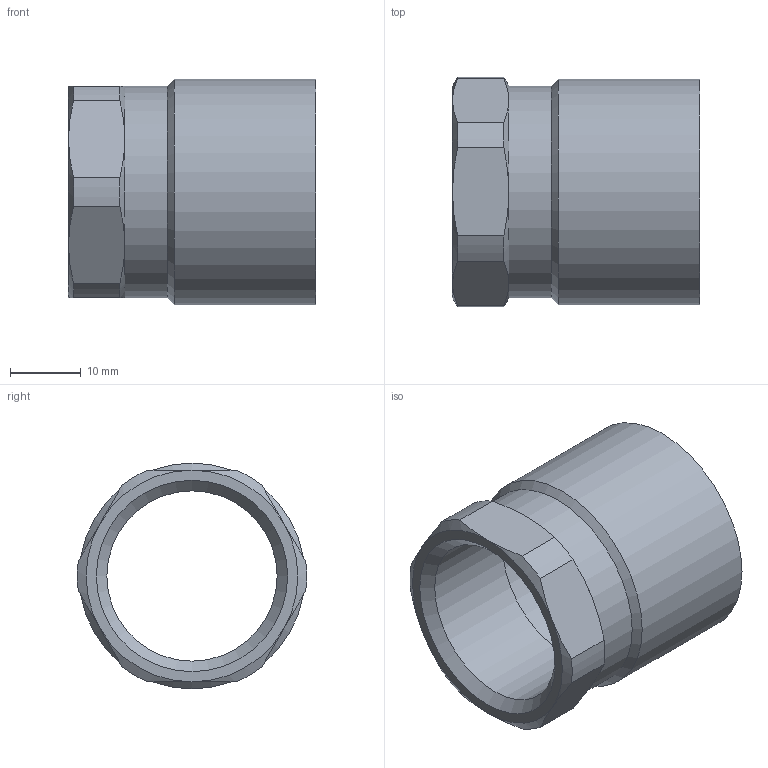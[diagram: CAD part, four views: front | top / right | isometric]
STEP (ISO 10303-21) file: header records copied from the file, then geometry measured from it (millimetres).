
FILE_DESCRIPTION((''),'2;1');
FILE_NAME('C:\Documents and Settings\pajchrowski\Desktop\STEP\14270_28-34(2).stp','2009-02-02T14:05:03',('pajchrowski'),(''),'Autodesk Inventor 2009','Autodesk Inventor 2009','');
FILE_SCHEMA(('AUTOMOTIVE_DESIGN { 1 0 10303 214 1 1 1 1 }'));
Length unit declared in the file: millimetre
Products named in the file (1): 14270_28-34(2)
Bounding box: 35 x 32.47 x 32 mm (x, y, z)
Volume: 8030.6 mm3; surface area: 6950.3 mm2
Topology: 1 solids, 1 shells, 34 faces, 77 edges, 46 vertices
Faces by surface type: cone 15, cylinder 10, plane 9
Full cylindrical faces by diameter (mm): 24.117 x1, 28 x1, 30 x1, 32 x1
Entity records: 908 total; most frequent: CARTESIAN_POINT 197, DIRECTION 148, ORIENTED_EDGE 138, EDGE_CURVE 69, AXIS2_PLACEMENT_3D 68, VERTEX_POINT 45, EDGE_LOOP 44, FACE_OUTER_BOUND 34
